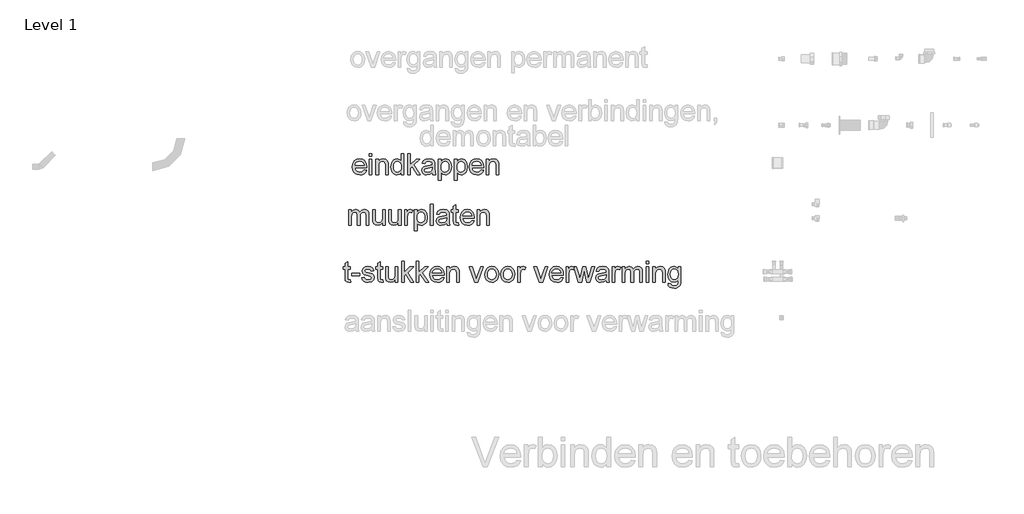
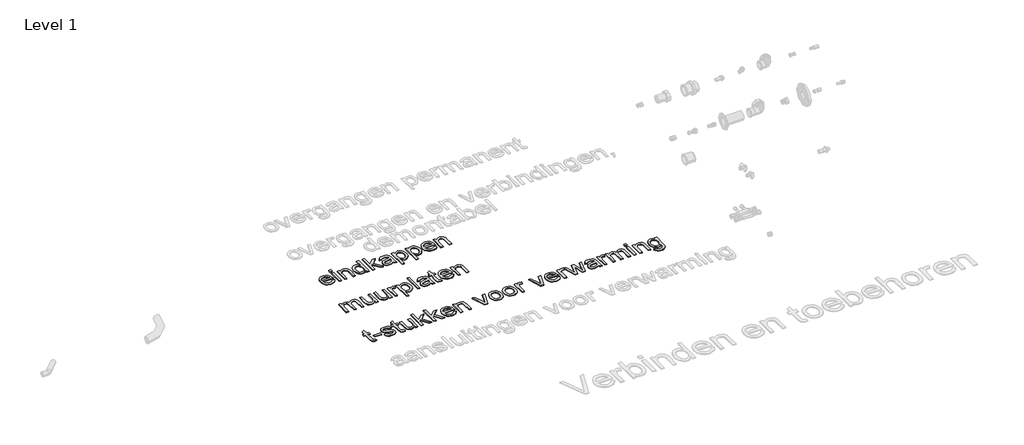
# One storey, part 4 of 7: 3 proxies.
"""IFC4 building model written with IfcOpenShell, lengths in millimetres."""

from ifc_helpers import new_model, si_unit, origin, origin_with_axes, place, context, project, spatial, polyline, outline, extrude, element, save

model = new_model("IFC4")

# Units and contexts
model_context = context("Model", 3, world=origin())
ifc_project = project(units=[si_unit("LENGTHUNIT", "METRE", prefix="MILLI")], contexts=[model_context])

# Site, building, storey
site = spatial("IfcSite", under=ifc_project)
building = spatial("IfcBuilding", under=site)
storey = spatial("IfcBuildingStorey", under=building, Name="Level 1", Elevation=0.0)

# Proxies
placement = place(None, origin())
element("IfcBuildingElementProxy", 1, Name="small", ObjectType="small", at=placement, inside=storey, context=model_context, shape_type="SweptSolid", body=[
    extrude(outline(polyline([(2370.7372032, 4922.1930397), (2387.973701, 4919.9955579), (2381.7632398, 4907.0080972), (2371.8531119, 4897.2996914), (2358.4664993, 4891.2480326), (2341.8265835, 4889.230813), (2321.19944, 4892.7115898), (2305.3277845, 4903.1539202), (2295.2073508, 4919.8796751), (2291.8338729, 4942.2107254), (2295.2416864, 4965.292868), (2305.4651271, 4982.5551175), (2321.1221848, 4993.3193447), (2340.8308496, 4996.9074204), (2359.9257645, 4993.3279286), (2375.1836703, 4982.5894531), (2385.1882211, 4965.3615393), (2388.5230714, 4942.3137323), (2388.4200645, 4937.5754122), (2309.4137272, 4937.5754122), (2312.4567244, 4924.4162732), (2319.5255769, 4914.742203), (2329.7275578, 4908.7935512), (2342.16994, 4906.8106672), (2359.4064378, 4910.4845821), (2370.7372032, 4922.1930397)]), holes=[polyline([(2309.4137272, 4955.1552665), (2370.9432171, 4955.1552665), (2363.9044083, 4971.0870094), (2353.6552159, 4977.2674269), (2340.7621783, 4979.3275661), (2328.9120861, 4977.6837467), (2319.1135491, 4972.7522886), (2312.302214, 4965.0653943), (2309.4137272, 4955.1552665)])]), origin_with_axes(), (0.0, 0.0, 1.0), 5.0),
    extrude(outline(polyline([(2406.1029257, 5014.4872747), (2406.1029257, 5032.0671289), (2423.68278, 5032.0671289), (2423.68278, 5014.4872747), (2406.1029257, 5014.4872747)])), origin_with_axes(), (0.0, 0.0, 1.0), 5.0),
    extrude(outline(polyline([(2406.1029257, 4891.4282947), (2406.1029257, 4994.7099386), (2423.68278, 4994.7099386), (2423.68278, 4891.4282947), (2406.1029257, 4891.4282947)])), origin_with_axes(), (0.0, 0.0, 1.0), 5.0),
    extrude(outline(polyline([(2450.0525614, 4891.4282947), (2450.0525614, 4994.7099386), (2467.6324157, 4994.7099386), (2467.6324157, 4980.2889644), (2481.0748238, 4992.7528064), (2499.4272302, 4996.9074204), (2516.0285184, 4993.5596942), (2527.3592838, 4984.7697671), (2532.6298066, 4971.8423938), (2533.5568692, 4954.8462456), (2533.5568692, 4891.4282947), (2515.9770149, 4891.4282947), (2515.9770149, 4952.4770856), (2513.9512114, 4968.0311363), (2506.7922278, 4976.2545252), (2494.7232458, 4979.3275661), (2484.4268419, 4977.6021996), (2475.6497906, 4972.4260999), (2469.6367594, 4962.425841), (2467.6324157, 4946.2279967), (2467.6324157, 4891.4282947), (2450.0525614, 4891.4282947)])), origin_with_axes(), (0.0, 0.0, 1.0), 5.0),
    extrude(outline(polyline([(2621.4561406, 4891.4282947), (2621.4561406, 4908.0124151), (2609.8249382, 4893.9262135), (2593.7472687, 4889.230813), (2582.3821676, 4890.9304278), (2571.9784648, 4896.0292722), (2563.1713698, 4904.1711139), (2556.5960923, 4914.9997204), (2551.1367235, 4942.9661097), (2556.1668966, 4970.9496668), (2562.4503211, 4982.0486666), (2571.2402482, 4990.2119681), (2581.8714248, 4995.2335573), (2593.6785974, 4996.9074204), (2609.8850256, 4992.1175968), (2621.4561406, 4979.6709226), (2621.4561406, 5032.0671289), (2639.0359949, 5032.0671289), (2639.0359949, 4891.4282947), (2621.4561406, 4891.4282947)]), holes=[polyline([(2568.7165777, 4943.034781), (2570.6994617, 4927.1330818), (2576.6481136, 4915.8237761), (2585.2921142, 4909.0639444), (2595.3610444, 4906.8106672), (2605.4256826, 4908.9609375), (2613.8507935, 4915.4117483), (2619.5548038, 4926.2832744), (2621.4561406, 4941.6956906), (2619.5204681, 4958.5459122), (2613.7134509, 4970.2286181), (2605.0737422, 4977.0528291), (2594.6399957, 4979.3275661), (2584.4680585, 4977.1429602), (2576.1330788, 4970.5891425), (2570.570703, 4959.3313403), (2568.7165777, 4943.034781)])]), origin_with_axes(), (0.0, 0.0, 1.0), 5.0),
    extrude(outline(polyline([(2665.4057763, 4891.4282947), (2665.4057763, 5032.0671289), (2682.9856305, 5032.0671289), (2682.9856305, 4956.4943569), (2722.4029601, 4994.7099386), (2746.7126023, 4994.7099386), (2706.8145736, 4956.0136578), (2748.9100841, 4891.4282947), (2728.3773637, 4891.4282947), (2694.213389, 4943.7901654), (2682.9856305, 4932.9057634), (2682.9856305, 4891.4282947), (2665.4057763, 4891.4282947)])), origin_with_axes(), (0.0, 0.0, 1.0), 5.0),
    extrude(outline(polyline([(2830.2169101, 4904.6131854), (2813.1692584, 4892.6987139), (2794.3361528, 4889.230813), (2779.6447854, 4891.3167039), (2768.8075949, 4897.5743766), (2762.1250185, 4907.0767685), (2759.897493, 4918.896817), (2763.262387, 4932.8027565), (2772.1038176, 4942.8974384), (2784.4131492, 4948.6658281), (2799.6238434, 4951.3096734), (2830.1139031, 4957.3527483), (2830.2169101, 4961.2670127), (2829.0065783, 4969.1127094), (2825.375583, 4974.2458895), (2817.2552011, 4978.057147), (2805.9416035, 4979.3275661), (2788.1557353, 4975.9455043), (2779.6748291, 4963.9451936), (2762.0949748, 4966.1426754), (2769.7003219, 4983.3105019), (2785.0140231, 4993.3708481), (2808.2077566, 4996.9074204), (2829.5130292, 4993.782876), (2841.5476756, 4985.9371793), (2846.9383731, 4974.0055399), (2847.7967644, 4958.6231674), (2847.7967644, 4936.7513565), (2848.6894914, 4906.2097933), (2852.191728, 4891.4282947), (2834.6118737, 4891.4282947), (2830.2169101, 4904.6131854)]), holes=[polyline([(2830.2169101, 4939.772894), (2801.8556608, 4934.3821965), (2786.7308057, 4931.5323373), (2779.880843, 4926.8970242), (2777.4773473, 4920.1329005), (2782.7135343, 4910.6219247), (2798.078739, 4906.8106672), (2815.8646072, 4911.0167847), (2827.3327153, 4921.1973058), (2830.1139031, 4934.7942243), (2830.2169101, 4939.772894)])]), origin_with_axes(), (0.0, 0.0, 1.0), 5.0),
    extrude(outline(polyline([(2871.969064, 4851.8736226), (2871.969064, 4994.7099386), (2889.5489183, 4994.7099386), (2889.5489183, 4977.4734409), (2901.7037394, 4992.0489255), (2918.1161815, 4996.9074204), (2930.0049013, 4995.2078056), (2940.4000202, 4990.1089611), (2948.8637586, 4981.9199079), (2954.958337, 4970.9496668), (2959.8683354, 4943.8588367), (2954.3231275, 4915.3774126), (2947.5246682, 4904.2011576), (2938.2197062, 4895.9777687), (2927.3825158, 4890.9175519), (2915.987371, 4889.230813), (2900.6908376, 4893.7459513), (2889.5489183, 4905.1625559), (2889.5489183, 4851.8736226), (2871.969064, 4851.8736226)]), holes=[polyline([(2889.5489183, 4942.245061), (2891.4502551, 4926.4849963), (2897.1542654, 4915.4632518), (2905.5707923, 4908.9738134), (2915.6096788, 4906.8106672), (2925.8116597, 4909.0510686), (2934.4427844, 4915.7722726), (2940.3270569, 4927.1974611), (2942.2884811, 4943.5498158), (2940.3742685, 4959.2240414), (2934.6316305, 4970.4002964), (2926.2279795, 4977.0957487), (2916.3307275, 4979.3275661), (2906.394848, 4976.9541141), (2897.6693002, 4969.8337581), (2891.5790138, 4958.1896798), (2889.5489183, 4942.245061)])]), origin_with_axes(), (0.0, 0.0, 1.0), 5.0),
    extrude(outline(polyline([(2979.6456715, 4851.8736226), (2979.6456715, 4994.7099386), (2997.2255257, 4994.7099386), (2997.2255257, 4977.4734409), (3009.3803468, 4992.0489255), (3025.7927889, 4996.9074204), (3037.6815087, 4995.2078056), (3048.0766276, 4990.1089611), (3056.5403661, 4981.9199079), (3062.6349445, 4970.9496668), (3067.5449428, 4943.8588367), (3061.9997349, 4915.3774126), (3055.2012756, 4904.2011576), (3045.8963137, 4895.9777687), (3035.0591232, 4890.9175519), (3023.6639784, 4889.230813), (3008.3674451, 4893.7459513), (2997.2255257, 4905.1625559), (2997.2255257, 4851.8736226), (2979.6456715, 4851.8736226)]), holes=[polyline([(2997.2255257, 4942.245061), (2999.1268625, 4926.4849963), (3004.8308728, 4915.4632518), (3013.2473998, 4908.9738134), (3023.2862863, 4906.8106672), (3033.4882671, 4909.0510686), (3042.1193919, 4915.7722726), (3048.0036644, 4927.1974611), (3049.9650886, 4943.5498158), (3048.0508759, 4959.2240414), (3042.308238, 4970.4002964), (3033.9045869, 4977.0957487), (3024.007335, 4979.3275661), (3014.0714554, 4976.9541141), (3005.3459076, 4969.8337581), (2999.2556212, 4958.1896798), (2997.2255257, 4942.245061)])]), origin_with_axes(), (0.0, 0.0, 1.0), 5.0),
    extrude(outline(polyline([(3159.6331639, 4922.1930397), (3176.8696616, 4919.9955579), (3170.6592004, 4907.0080972), (3160.7490726, 4897.2996914), (3147.3624599, 4891.2480326), (3130.7225441, 4889.230813), (3110.0954007, 4892.7115898), (3094.2237451, 4903.1539202), (3084.1033114, 4919.8796751), (3080.7298335, 4942.2107254), (3084.1376471, 4965.292868), (3094.3610877, 4982.5551175), (3110.0181455, 4993.3193447), (3129.7268102, 4996.9074204), (3148.8217252, 4993.3279286), (3164.0796309, 4982.5894531), (3174.0841818, 4965.3615393), (3177.4190321, 4942.3137323), (3177.3160251, 4937.5754122), (3098.3096878, 4937.5754122), (3101.3526851, 4924.4162732), (3108.4215376, 4914.742203), (3118.6235185, 4908.7935512), (3131.0659007, 4906.8106672), (3148.3023984, 4910.4845821), (3159.6331639, 4922.1930397)]), holes=[polyline([(3098.3096878, 4955.1552665), (3159.8391778, 4955.1552665), (3152.8003689, 4971.0870094), (3142.5511766, 4977.2674269), (3129.6581389, 4979.3275661), (3117.8080467, 4977.6837467), (3108.0095098, 4972.7522886), (3101.1981746, 4965.0653943), (3098.3096878, 4955.1552665)])]), origin_with_axes(), (0.0, 0.0, 1.0), 5.0),
    extrude(outline(polyline([(3194.9988863, 4891.4282947), (3194.9988863, 4994.7099386), (3212.5787406, 4994.7099386), (3212.5787406, 4980.2889644), (3226.0211487, 4992.7528064), (3244.3735552, 4996.9074204), (3260.9748434, 4993.5596942), (3272.3056088, 4984.7697671), (3277.5761315, 4971.8423938), (3278.5031941, 4954.8462456), (3278.5031941, 4891.4282947), (3260.9233399, 4891.4282947), (3260.9233399, 4952.4770856), (3258.8975364, 4968.0311363), (3251.7385527, 4976.2545252), (3239.6695707, 4979.3275661), (3229.3731668, 4977.6021996), (3220.5961156, 4972.4260999), (3214.5830843, 4962.425841), (3212.5787406, 4946.2279967), (3212.5787406, 4891.4282947), (3194.9988863, 4891.4282947)])), origin_with_axes(), (0.0, 0.0, 1.0), 5.0),
])
element("IfcBuildingElementProxy", 2, Name="small", ObjectType="small", at=placement, inside=storey, context=model_context, shape_type="SweptSolid", body=[
    extrude(outline(polyline([(2266.0349447, 4550.3273586), (2266.0349447, 4653.6090025), (2283.6147989, 4653.6090025), (2283.6147989, 4636.6128543), (2295.7009488, 4650.5359615), (2312.9031109, 4655.8064842), (2330.5173008, 4650.4329546), (2340.1999549, 4635.3767708), (2353.9170482, 4650.6990559), (2371.2393851, 4655.8064842), (2384.4543195, 4653.6819657), (2394.2271047, 4647.3084102), (2400.2658877, 4636.5141393), (2402.2788153, 4621.1274748), (2402.2788153, 4550.3273586), (2384.698961, 4550.3273586), (2384.698961, 4613.5736312), (2383.0680175, 4628.2521228), (2377.1622852, 4635.4797777), (2367.1191068, 4638.22663), (2357.595255, 4636.4669278), (2349.8311055, 4631.1878211), (2344.6678817, 4622.0287857), (2342.9468071, 4608.6292972), (2342.9468071, 4550.3273586), (2325.3669529, 4550.3273586), (2325.3669529, 4615.5307634), (2321.298178, 4632.5612472), (2315.9289403, 4636.8102843), (2307.9587768, 4638.22663), (2294.9455644, 4634.4497082), (2286.2929799, 4623.3936279), (2283.6147989, 4602.414544), (2283.6147989, 4550.3273586), (2266.0349447, 4550.3273586)])), origin_with_axes(), (0.0, 0.0, 1.0), 5.0),
    extrude(outline(polyline([(2494.5730503, 4550.3273586), (2494.5730503, 4568.0788911), (2480.8044535, 4553.1171304), (2462.846907, 4548.1298768), (2446.3142901, 4551.6321134), (2434.9148534, 4560.4220405), (2429.6786663, 4573.3665817), (2428.6485967, 4589.7103524), (2428.6485967, 4653.6090025), (2446.228451, 4653.6090025), (2446.228451, 4597.9852448), (2447.2928562, 4580.062034), (2454.2458259, 4569.5381564), (2467.3448775, 4565.7097311), (2482.0233691, 4569.6239955), (2491.7231911, 4580.2852157), (2494.5730503, 4599.8737057), (2494.5730503, 4653.6090025), (2512.1529045, 4653.6090025), (2512.1529045, 4550.3273586), (2494.5730503, 4550.3273586)])), origin_with_axes(), (0.0, 0.0, 1.0), 5.0),
    extrude(outline(polyline([(2602.2496577, 4550.3273586), (2602.2496577, 4568.0788911), (2588.4810609, 4553.1171304), (2570.5235144, 4548.1298768), (2553.9908976, 4551.6321134), (2542.5914608, 4560.4220405), (2537.3552738, 4573.3665817), (2536.3252042, 4589.7103524), (2536.3252042, 4653.6090025), (2553.9050584, 4653.6090025), (2553.9050584, 4597.9852448), (2554.9694637, 4580.062034), (2561.9224334, 4569.5381564), (2575.021485, 4565.7097311), (2589.6999766, 4569.6239955), (2599.3997985, 4580.2852157), (2602.2496577, 4599.8737057), (2602.2496577, 4653.6090025), (2619.829512, 4653.6090025), (2619.829512, 4550.3273586), (2602.2496577, 4550.3273586)])), origin_with_axes(), (0.0, 0.0, 1.0), 5.0),
    extrude(outline(polyline([(2644.0018116, 4550.3273586), (2644.0018116, 4653.6090025), (2659.3841841, 4653.6090025), (2659.3841841, 4638.3296369), (2670.3029217, 4652.4072546), (2681.2903306, 4655.8064842), (2698.9388562, 4650.3814511), (2693.0674596, 4634.6213864), (2680.7066245, 4638.22663), (2670.766453, 4634.758729), (2664.4315251, 4625.1447462), (2661.5816659, 4604.6120258), (2661.5816659, 4550.3273586), (2644.0018116, 4550.3273586)])), origin_with_axes(), (0.0, 0.0, 1.0), 5.0),
    extrude(outline(polyline([(2709.9262651, 4510.7726865), (2709.9262651, 4653.6090025), (2727.5061194, 4653.6090025), (2727.5061194, 4636.3725047), (2739.6609405, 4650.9479894), (2756.0733826, 4655.8064842), (2767.9621024, 4654.1068694), (2778.3572213, 4649.008025), (2786.8209598, 4640.8189718), (2792.9155382, 4629.8487307), (2797.8255365, 4602.7579005), (2792.2803286, 4574.2764765), (2785.4818693, 4563.1002215), (2776.1769074, 4554.8768326), (2765.3397169, 4549.8166158), (2753.9445721, 4548.1298768), (2738.6480388, 4552.6450152), (2727.5061194, 4564.0616197), (2727.5061194, 4510.7726865), (2709.9262651, 4510.7726865)]), holes=[polyline([(2727.5061194, 4601.1441249), (2729.4074562, 4585.3840602), (2735.1114665, 4574.3623156), (2743.5279934, 4567.8728772), (2753.56688, 4565.7097311), (2763.7688608, 4567.9501324), (2772.3999856, 4574.6713365), (2778.2842581, 4586.096525), (2780.2456822, 4602.4488797), (2778.3314696, 4618.1231052), (2772.5888317, 4629.2993602), (2764.1851806, 4635.9948125), (2754.2879287, 4638.22663), (2744.3520491, 4635.853178), (2735.6265013, 4628.7328219), (2729.5362149, 4617.0887437), (2727.5061194, 4601.1441249)])]), origin_with_axes(), (0.0, 0.0, 1.0), 5.0),
    extrude(outline(polyline([(2817.6028726, 4550.3273586), (2817.6028726, 4690.9661928), (2835.1827269, 4690.9661928), (2835.1827269, 4550.3273586), (2817.6028726, 4550.3273586)])), origin_with_axes(), (0.0, 0.0, 1.0), 5.0),
    extrude(outline(polyline([(2927.4769618, 4563.5122493), (2910.4293102, 4551.5977777), (2891.5962045, 4548.1298768), (2876.9048371, 4550.2157677), (2866.0676466, 4556.4734405), (2859.3850702, 4565.9758324), (2857.1575447, 4577.7958809), (2860.5224387, 4591.7018203), (2869.3638693, 4601.7965023), (2881.6732009, 4607.5648919), (2896.8838951, 4610.2087372), (2927.3739549, 4616.2518121), (2927.4769618, 4620.1660766), (2926.26663, 4628.0117732), (2922.6356348, 4633.1449533), (2914.5152528, 4636.9562108), (2903.2016552, 4638.22663), (2885.415787, 4634.8445682), (2876.9348808, 4622.8442575), (2859.3550265, 4625.0417393), (2866.9603736, 4642.2095657), (2882.2740748, 4652.269912), (2905.4678083, 4655.8064842), (2926.7730809, 4652.6819398), (2938.8077273, 4644.8362432), (2944.1984248, 4632.9046038), (2945.0568161, 4617.5222313), (2945.0568161, 4595.6504204), (2945.9495431, 4565.1088572), (2949.4517797, 4550.3273586), (2931.8719254, 4550.3273586), (2927.4769618, 4563.5122493)]), holes=[polyline([(2927.4769618, 4598.6719578), (2899.1157125, 4593.2812603), (2883.9908574, 4590.4314012), (2877.1408947, 4585.796088), (2874.737399, 4579.0319644), (2879.973586, 4569.5209886), (2895.3387907, 4565.7097311), (2913.1246589, 4569.9158486), (2924.592767, 4580.0963696), (2927.3739549, 4593.6932882), (2927.4769618, 4598.6719578)])]), origin_with_axes(), (0.0, 0.0, 1.0), 5.0),
    extrude(outline(polyline([(3006.5863061, 4564.9886824), (3008.7837878, 4549.8123238), (2995.6332328, 4548.1298768), (2980.9032377, 4551.0484073), (2973.555408, 4558.7052579), (2971.4265975, 4578.6542722), (2971.4265975, 4636.0291482), (2958.2417068, 4636.0291482), (2958.2417068, 4653.6090025), (2971.4265975, 4653.6090025), (2971.4265975, 4678.7083647), (2989.0064518, 4689.0433962), (2989.0064518, 4653.6090025), (3006.5863061, 4653.6090025), (3006.5863061, 4636.0291482), (2989.0064518, 4636.0291482), (2989.0064518, 4579.169307), (2989.9335144, 4570.1046947), (2992.937884, 4566.8943111), (2998.9294555, 4565.7097311), (3006.5863061, 4564.9886824)])), origin_with_axes(), (0.0, 0.0, 1.0), 5.0),
    extrude(outline(polyline([(3096.4770453, 4581.0921036), (3113.713543, 4578.8946218), (3107.5030818, 4565.9071611), (3097.592954, 4556.1987552), (3084.2063414, 4550.1470964), (3067.5664256, 4548.1298768), (3046.9392821, 4551.6106536), (3031.0676266, 4562.052984), (3020.9471929, 4578.778739), (3017.573715, 4601.1097892), (3020.9815285, 4624.1919319), (3031.2049692, 4641.4541813), (3046.8620269, 4652.2184085), (3066.5706916, 4655.8064842), (3085.6656066, 4652.2269924), (3100.9235124, 4641.488517), (3110.9280632, 4624.2606032), (3114.2629135, 4601.2127962), (3114.1599065, 4596.4744761), (3035.1535693, 4596.4744761), (3038.1965665, 4583.3153371), (3045.265419, 4573.6412669), (3055.4673999, 4567.692615), (3067.9097821, 4565.7097311), (3085.1462799, 4569.3836459), (3096.4770453, 4581.0921036)]), holes=[polyline([(3035.1535693, 4614.0543303), (3096.6830592, 4614.0543303), (3089.6442504, 4629.9860733), (3079.395058, 4636.1664908), (3066.5020203, 4638.22663), (3054.6519281, 4636.5828106), (3044.8533912, 4631.6513524), (3038.0420561, 4623.9644582), (3035.1535693, 4614.0543303)])]), origin_with_axes(), (0.0, 0.0, 1.0), 5.0),
    extrude(outline(polyline([(3131.8427678, 4550.3273586), (3131.8427678, 4653.6090025), (3149.422622, 4653.6090025), (3149.422622, 4639.1880283), (3162.8650302, 4651.6518702), (3181.2174366, 4655.8064842), (3197.8187248, 4652.4587581), (3209.1494902, 4643.668831), (3214.420013, 4630.7414576), (3215.3470756, 4613.7453095), (3215.3470756, 4550.3273586), (3197.7672213, 4550.3273586), (3197.7672213, 4611.3761494), (3195.7414178, 4626.9302002), (3188.5824342, 4635.153589), (3176.5134522, 4638.22663), (3166.2170483, 4636.5012634), (3157.439997, 4631.3251637), (3151.4269658, 4621.3249048), (3149.422622, 4605.1270606), (3149.422622, 4550.3273586), (3131.8427678, 4550.3273586)])), origin_with_axes(), (0.0, 0.0, 1.0), 5.0),
])
element("IfcBuildingElementProxy", 3, Name="small", ObjectType="small", at=placement, inside=storey, context=model_context, shape_type="SweptSolid", body=[
    extrude(outline(polyline([(2277.7374193, 4180.6739929), (2279.9349011, 4165.4976344), (2266.7843461, 4163.8151874), (2252.054351, 4166.7337179), (2244.7065213, 4174.3905685), (2242.5777108, 4194.3395828), (2242.5777108, 4251.7144588), (2229.3928201, 4251.7144588), (2229.3928201, 4269.294313), (2242.5777108, 4269.294313), (2242.5777108, 4294.3936753), (2260.1575651, 4304.7287068), (2260.1575651, 4269.294313), (2277.7374193, 4269.294313), (2277.7374193, 4251.7144588), (2260.1575651, 4251.7144588), (2260.1575651, 4194.8546176), (2261.0846277, 4185.7900052), (2264.0889973, 4182.5796217), (2270.0805688, 4181.3950417), (2277.7374193, 4180.6739929)])), origin_with_axes(), (0.0, 0.0, 1.0), 5.0),
    extrude(outline(polyline([(2286.5273465, 4207.7648231), (2286.5273465, 4225.3446774), (2341.4643911, 4225.3446774), (2341.4643911, 4207.7648231), (2286.5273465, 4207.7648231)])), origin_with_axes(), (0.0, 0.0, 1.0), 5.0),
    extrude(outline(polyline([(2354.6492818, 4196.7774142), (2372.2291361, 4198.9748959), (2375.00174, 4191.455388), (2380.3666858, 4185.9273478), (2399.0109453, 4181.3950417), (2416.9341561, 4185.5496557), (2422.7712171, 4195.3009811), (2416.8998205, 4203.1981812), (2398.8049314, 4208.2111866), (2372.332143, 4216.8122676), (2360.7781958, 4226.8554461), (2356.8467636, 4241.0360707), (2360.0056437, 4254.1351223), (2368.6238925, 4264.1439651), (2379.8001475, 4269.3458165), (2394.9250026, 4271.4917948), (2416.3161144, 4268.0410617), (2429.9130329, 4258.7017641), (2435.9561078, 4242.9245316), (2418.3762536, 4240.7270498), (2411.7666404, 4250.4268718), (2396.2984287, 4253.9119405), (2379.4739588, 4250.5813822), (2374.4266179, 4242.8215247), (2376.5210927, 4237.7055124), (2383.0792024, 4233.8255836), (2398.2212253, 4230.0829974), (2424.0244685, 4221.8081051), (2436.0076113, 4212.4344719), (2440.3510714, 4197.1551063), (2435.2522269, 4180.3306364), (2420.5393997, 4168.1243118), (2398.7705958, 4163.8151874), (2381.044815, 4165.8924944), (2368.1088577, 4172.1244154), (2359.473441, 4182.4422791), (2354.6492818, 4196.7774142)])), origin_with_axes(), (0.0, 0.0, 1.0), 5.0),
    extrude(outline(polyline([(2497.4855978, 4180.6739929), (2499.6830796, 4165.4976344), (2486.5325245, 4163.8151874), (2471.8025294, 4166.7337179), (2464.4546997, 4174.3905685), (2462.3258892, 4194.3395828), (2462.3258892, 4251.7144588), (2449.1409985, 4251.7144588), (2449.1409985, 4269.294313), (2462.3258892, 4269.294313), (2462.3258892, 4294.3936753), (2479.9057435, 4304.7287068), (2479.9057435, 4269.294313), (2497.4855978, 4269.294313), (2497.4855978, 4251.7144588), (2479.9057435, 4251.7144588), (2479.9057435, 4194.8546176), (2480.8328061, 4185.7900052), (2483.8371758, 4182.5796217), (2489.8287472, 4181.3950417), (2497.4855978, 4180.6739929)])), origin_with_axes(), (0.0, 0.0, 1.0), 5.0),
    extrude(outline(polyline([(2580.9899056, 4166.0126692), (2580.9899056, 4183.7642017), (2567.2213088, 4168.802441), (2549.2637623, 4163.8151874), (2532.7311455, 4167.317424), (2521.3317087, 4176.1073511), (2516.0955217, 4189.0518923), (2515.0654521, 4205.395663), (2515.0654521, 4269.294313), (2532.6453063, 4269.294313), (2532.6453063, 4213.6705554), (2533.7097116, 4195.7473446), (2540.6626813, 4185.223467), (2553.7617329, 4181.3950417), (2568.4402245, 4185.3093061), (2578.1400464, 4195.9705263), (2580.9899056, 4215.5590163), (2580.9899056, 4269.294313), (2598.5697599, 4269.294313), (2598.5697599, 4166.0126692), (2580.9899056, 4166.0126692)])), origin_with_axes(), (0.0, 0.0, 1.0), 5.0),
    extrude(outline(polyline([(2622.7420595, 4166.0126692), (2622.7420595, 4306.6515034), (2640.3219138, 4306.6515034), (2640.3219138, 4231.0787314), (2679.7392433, 4269.294313), (2704.0488855, 4269.294313), (2664.1508569, 4230.5980322), (2706.2463673, 4166.0126692), (2685.7136469, 4166.0126692), (2651.5496723, 4218.3745398), (2640.3219138, 4207.4901379), (2640.3219138, 4166.0126692), (2622.7420595, 4166.0126692)])), origin_with_axes(), (0.0, 0.0, 1.0), 5.0),
    extrude(outline(polyline([(2721.6287398, 4166.0126692), (2721.6287398, 4306.6515034), (2739.2085941, 4306.6515034), (2739.2085941, 4231.0787314), (2778.6259236, 4269.294313), (2802.9355658, 4269.294313), (2763.0375372, 4230.5980322), (2805.1330476, 4166.0126692), (2784.6003272, 4166.0126692), (2750.4363526, 4218.3745398), (2739.2085941, 4207.4901379), (2739.2085941, 4166.0126692), (2721.6287398, 4166.0126692)])), origin_with_axes(), (0.0, 0.0, 1.0), 5.0),
    extrude(outline(polyline([(2892.8263051, 4196.7774142), (2910.0628028, 4194.5799324), (2903.8523416, 4181.5924717), (2893.9422138, 4171.8840658), (2880.5556011, 4165.832407), (2863.9156854, 4163.8151874), (2843.2885419, 4167.2959642), (2827.4168864, 4177.7382946), (2817.2964527, 4194.4640495), (2813.9229748, 4216.7950998), (2817.3307883, 4239.8772424), (2827.554229, 4257.1394919), (2843.2112867, 4267.9037191), (2862.9199514, 4271.4917948), (2882.0148664, 4267.912303), (2897.2727721, 4257.1738276), (2907.277323, 4239.9459137), (2910.6121733, 4216.8981067), (2910.5091663, 4212.1597866), (2831.502829, 4212.1597866), (2834.5458263, 4199.0006477), (2841.6146788, 4189.3265775), (2851.8166597, 4183.3779256), (2864.2590419, 4181.3950417), (2881.4955396, 4185.0689565), (2892.8263051, 4196.7774142)]), holes=[polyline([(2831.502829, 4229.7396409), (2893.032319, 4229.7396409), (2885.9935102, 4245.6713839), (2875.7443178, 4251.8518014), (2862.8512801, 4253.9119405), (2851.0011879, 4252.2681212), (2841.202651, 4247.336663), (2834.3913158, 4239.6497687), (2831.502829, 4229.7396409)])]), origin_with_axes(), (0.0, 0.0, 1.0), 5.0),
    extrude(outline(polyline([(2928.1920276, 4166.0126692), (2928.1920276, 4269.294313), (2945.7718818, 4269.294313), (2945.7718818, 4254.8733388), (2959.2142899, 4267.3371808), (2977.5666964, 4271.4917948), (2994.1679846, 4268.1440687), (3005.49875, 4259.3541415), (3010.7692727, 4246.4267682), (3011.6963354, 4229.43062), (3011.6963354, 4166.0126692), (2994.1164811, 4166.0126692), (2994.1164811, 4227.06146), (2992.0906776, 4242.6155108), (2984.931694, 4250.8388996), (2972.862712, 4253.9119405), (2962.5663081, 4252.186574), (2953.7892568, 4247.0104743), (2947.7762256, 4237.0102154), (2945.7718818, 4220.8123712), (2945.7718818, 4166.0126692), (2928.1920276, 4166.0126692)])), origin_with_axes(), (0.0, 0.0, 1.0), 5.0),
    extrude(outline(polyline([(3116.1453914, 4166.0126692), (3079.8182707, 4269.294313), (3098.4281946, 4269.294313), (3120.4373481, 4207.4214665), (3127.0641291, 4186.6140609), (3133.5535675, 4206.2540543), (3155.7000636, 4269.294313), (3174.3099874, 4269.294313), (3138.4292302, 4166.0126692), (3116.1453914, 4166.0126692)])), origin_with_axes(), (0.0, 0.0, 1.0), 5.0),
    extrude(outline(polyline([(3185.2973964, 4217.6534911), (3189.1000699, 4242.5554234), (3200.5080906, 4260.0580224), (3214.6028761, 4268.6333517), (3231.4788495, 4271.4917948), (3249.9471388, 4268.011018), (3264.6985936, 4257.5686876), (3274.3683719, 4240.9888592), (3277.5916313, 4219.0955885), (3276.1667017, 4201.3354721), (3271.8919129, 4187.8158087), (3264.8917317, 4177.6910831), (3255.2906248, 4170.1157797), (3243.886896, 4165.3903355), (3231.4788495, 4163.8151874), (3212.7873784, 4167.2830883), (3198.0530914, 4177.6867911), (3188.4863201, 4194.614268), (3185.2973964, 4217.6534911)]), holes=[polyline([(3202.8772506, 4217.6878268), (3204.9116381, 4201.7775436), (3211.0148004, 4190.4424862), (3220.1995875, 4183.6569028), (3231.4788495, 4181.3950417), (3242.706608, 4183.6697787), (3251.8742273, 4190.4939897), (3257.9773896, 4201.9792656), (3260.011777, 4218.2371972), (3257.9645137, 4233.683949), (3251.8227238, 4244.864496), (3242.6422286, 4251.6500794), (3231.4788495, 4253.9119405), (3220.1995875, 4251.6586633), (3211.0148004, 4244.8988317), (3204.9116381, 4233.589526), (3202.8772506, 4217.6878268)])]), origin_with_axes(), (0.0, 0.0, 1.0), 5.0),
    extrude(outline(polyline([(3292.9740038, 4217.6534911), (3296.7766774, 4242.5554234), (3308.184698, 4260.0580224), (3322.2794835, 4268.6333517), (3339.1554569, 4271.4917948), (3357.6237462, 4268.011018), (3372.3752011, 4257.5686876), (3382.0449793, 4240.9888592), (3385.2682387, 4219.0955885), (3383.8433091, 4201.3354721), (3379.5685204, 4187.8158087), (3372.5683391, 4177.6910831), (3362.9672322, 4170.1157797), (3351.5635035, 4165.3903355), (3339.1554569, 4163.8151874), (3320.4639859, 4167.2830883), (3305.7296988, 4177.6867911), (3296.1629276, 4194.614268), (3292.9740038, 4217.6534911)]), holes=[polyline([(3310.5538581, 4217.6878268), (3312.5882455, 4201.7775436), (3318.6914078, 4190.4424862), (3327.8761949, 4183.6569028), (3339.1554569, 4181.3950417), (3350.3832154, 4183.6697787), (3359.5508347, 4190.4939897), (3365.653997, 4201.9792656), (3367.6883845, 4218.2371972), (3365.6411212, 4233.683949), (3359.4993313, 4244.864496), (3350.3188361, 4251.6500794), (3339.1554569, 4253.9119405), (3327.8761949, 4251.6586633), (3318.6914078, 4244.8988317), (3312.5882455, 4233.589526), (3310.5538581, 4217.6878268)])]), origin_with_axes(), (0.0, 0.0, 1.0), 5.0),
    extrude(outline(polyline([(3405.0455748, 4166.0126692), (3405.0455748, 4269.294313), (3420.4279473, 4269.294313), (3420.4279473, 4254.0149475), (3431.3466849, 4268.0925652), (3442.3340938, 4271.4917948), (3459.9826194, 4266.0667617), (3454.1112228, 4250.306697), (3441.7503877, 4253.9119405), (3431.8102162, 4250.4440396), (3425.4752883, 4240.8300568), (3422.6254291, 4220.2973364), (3422.6254291, 4166.0126692), (3405.0455748, 4166.0126692)])), origin_with_axes(), (0.0, 0.0, 1.0), 5.0),
    extrude(outline(polyline([(3551.2467848, 4166.0126692), (3514.919664, 4269.294313), (3533.5295879, 4269.294313), (3555.5387414, 4207.4214665), (3562.1655224, 4186.6140609), (3568.6549608, 4206.2540543), (3590.8014569, 4269.294313), (3609.4113808, 4269.294313), (3573.5306235, 4166.0126692), (3551.2467848, 4166.0126692)])), origin_with_axes(), (0.0, 0.0, 1.0), 5.0),
    extrude(outline(polyline([(3697.1046382, 4196.7774142), (3714.341136, 4194.5799324), (3708.1306748, 4181.5924717), (3698.2205469, 4171.8840658), (3684.8339343, 4165.832407), (3668.1940185, 4163.8151874), (3647.566875, 4167.2959642), (3631.6952195, 4177.7382946), (3621.5747858, 4194.4640495), (3618.2013079, 4216.7950998), (3621.6091215, 4239.8772424), (3631.8325621, 4257.1394919), (3647.4896198, 4267.9037191), (3667.1982846, 4271.4917948), (3686.2931995, 4267.912303), (3701.5511053, 4257.1738276), (3711.5556561, 4239.9459137), (3714.8905064, 4216.8981067), (3714.7874995, 4212.1597866), (3635.7811622, 4212.1597866), (3638.8241594, 4199.0006477), (3645.893012, 4189.3265775), (3656.0949928, 4183.3779256), (3668.537375, 4181.3950417), (3685.7738728, 4185.0689565), (3697.1046382, 4196.7774142)]), holes=[polyline([(3635.7811622, 4229.7396409), (3697.3106521, 4229.7396409), (3690.2718433, 4245.6713839), (3680.0226509, 4251.8518014), (3667.1296133, 4253.9119405), (3655.2795211, 4252.2681212), (3645.4809841, 4247.336663), (3638.669649, 4239.6497687), (3635.7811622, 4229.7396409)])]), origin_with_axes(), (0.0, 0.0, 1.0), 5.0),
    extrude(outline(polyline([(3732.4703607, 4166.0126692), (3732.4703607, 4269.294313), (3747.8527332, 4269.294313), (3747.8527332, 4254.0149475), (3758.7714708, 4268.0925652), (3769.7588797, 4271.4917948), (3787.4074053, 4266.0667617), (3781.5360087, 4250.306697), (3769.1751736, 4253.9119405), (3759.2350021, 4250.4440396), (3752.9000742, 4240.8300568), (3750.050215, 4220.2973364), (3750.050215, 4166.0126692), (3732.4703607, 4166.0126692)])), origin_with_axes(), (0.0, 0.0, 1.0), 5.0),
    extrude(outline(polyline([(3815.528305, 4166.0126692), (3784.1111826, 4269.294313), (3802.37775, 4269.294313), (3820.1979538, 4209.0352422), (3825.51998, 4187.5067879), (3829.8806079, 4208.2455222), (3844.0612326, 4269.294313), (3865.0059808, 4269.294313), (3879.1179342, 4208.4172005), (3882.9978629, 4189.6355984), (3888.5602387, 4209.4472701), (3906.4147782, 4269.294313), (3924.7500168, 4269.294313), (3893.0925449, 4166.0126692), (3871.8387758, 4166.0126692), (3858.3448642, 4226.5807609), (3854.4305997, 4245.4653699), (3837.0224237, 4166.0126692), (3815.528305, 4166.0126692)])), origin_with_axes(), (0.0, 0.0, 1.0), 5.0),
    extrude(outline(polyline([(4002.7606202, 4179.1975599), (3985.7129685, 4167.2830883), (3966.8798629, 4163.8151874), (3952.1884955, 4165.9010783), (3941.351305, 4172.158751), (3934.6687286, 4181.661143), (3932.4412031, 4193.4811915), (3935.8060971, 4207.3871309), (3944.6475277, 4217.4818128), (3956.9568592, 4223.2502025), (3972.1675535, 4225.8940478), (4002.6576132, 4231.9371227), (4002.7606202, 4235.8513871), (4001.5502884, 4243.6970838), (3997.9192931, 4248.8302639), (3989.7989112, 4252.6415214), (3978.4853136, 4253.9119405), (3960.6994454, 4250.5298787), (3952.2185392, 4238.5295681), (3934.6386849, 4240.7270498), (3942.244032, 4257.8948763), (3957.5577332, 4267.9552226), (3980.7514667, 4271.4917948), (4002.0567393, 4268.3672504), (4014.0913856, 4260.5215537), (4019.4820831, 4248.5899144), (4020.3404745, 4233.2075419), (4020.3404745, 4211.335731), (4021.2332014, 4180.7941677), (4024.735438, 4166.0126692), (4007.1555838, 4166.0126692), (4002.7606202, 4179.1975599)]), holes=[polyline([(4002.7606202, 4214.3572684), (3974.3993709, 4208.9665709), (3959.2745158, 4206.1167117), (3952.4245531, 4201.4813986), (3950.0210574, 4194.717275), (3955.2572444, 4185.2062991), (3970.6224491, 4181.3950417), (3988.4083173, 4185.6011591), (3999.8764254, 4195.7816802), (4002.6576132, 4209.3785988), (4002.7606202, 4214.3572684)])]), origin_with_axes(), (0.0, 0.0, 1.0), 5.0),
    extrude(outline(polyline([(4044.5127741, 4166.0126692), (4044.5127741, 4269.294313), (4059.8951466, 4269.294313), (4059.8951466, 4254.0149475), (4070.8138842, 4268.0925652), (4081.8012931, 4271.4917948), (4099.4498187, 4266.0667617), (4093.5784221, 4250.306697), (4081.217587, 4253.9119405), (4071.2774155, 4250.4440396), (4064.9424876, 4240.8300568), (4062.0926284, 4220.2973364), (4062.0926284, 4166.0126692), (4044.5127741, 4166.0126692)])), origin_with_axes(), (0.0, 0.0, 1.0), 5.0),
    extrude(outline(polyline([(4110.4372276, 4166.0126692), (4110.4372276, 4269.294313), (4128.0170819, 4269.294313), (4128.0170819, 4252.2981649), (4140.1032317, 4266.2212721), (4157.3053938, 4271.4917948), (4174.9195838, 4266.1182651), (4184.6022379, 4251.0620814), (4198.3193312, 4266.3843665), (4215.6416681, 4271.4917948), (4228.8566025, 4269.3672763), (4238.6293877, 4262.9937207), (4244.6681706, 4252.1994499), (4246.6810983, 4236.8127854), (4246.6810983, 4166.0126692), (4229.101244, 4166.0126692), (4229.101244, 4229.2589418), (4227.4703005, 4243.9374334), (4221.5645682, 4251.1650883), (4211.5213897, 4253.9119405), (4201.997538, 4252.1522383), (4194.2333885, 4246.8731317), (4189.0701647, 4237.7140963), (4187.3490901, 4224.3146078), (4187.3490901, 4166.0126692), (4169.7692358, 4166.0126692), (4169.7692358, 4231.216074), (4165.700461, 4248.2465578), (4160.3312232, 4252.4955949), (4152.3610598, 4253.9119405), (4139.3478474, 4250.1350187), (4130.6952628, 4239.0789385), (4128.0170819, 4218.0998546), (4128.0170819, 4166.0126692), (4110.4372276, 4166.0126692)])), origin_with_axes(), (0.0, 0.0, 1.0), 5.0),
    extrude(outline(polyline([(4273.0508797, 4289.0716491), (4273.0508797, 4306.6515034), (4290.630734, 4306.6515034), (4290.630734, 4289.0716491), (4273.0508797, 4289.0716491)])), origin_with_axes(), (0.0, 0.0, 1.0), 5.0),
    extrude(outline(polyline([(4273.0508797, 4166.0126692), (4273.0508797, 4269.294313), (4290.630734, 4269.294313), (4290.630734, 4166.0126692), (4273.0508797, 4166.0126692)])), origin_with_axes(), (0.0, 0.0, 1.0), 5.0),
    extrude(outline(polyline([(4317.0005154, 4166.0126692), (4317.0005154, 4269.294313), (4334.5803697, 4269.294313), (4334.5803697, 4254.8733388), (4348.0227778, 4267.3371808), (4366.3751842, 4271.4917948), (4382.9764724, 4268.1440687), (4394.3072378, 4259.3541415), (4399.5777606, 4246.4267682), (4400.5048232, 4229.43062), (4400.5048232, 4166.0126692), (4382.9249689, 4166.0126692), (4382.9249689, 4227.06146), (4380.8991654, 4242.6155108), (4373.7401818, 4250.8388996), (4361.6711998, 4253.9119405), (4351.3747959, 4252.186574), (4342.5977446, 4247.0104743), (4336.5847134, 4237.0102154), (4334.5803697, 4220.8123712), (4334.5803697, 4166.0126692), (4317.0005154, 4166.0126692)])), origin_with_axes(), (0.0, 0.0, 1.0), 5.0),
    extrude(outline(polyline([(4420.2821593, 4157.222742), (4437.8620135, 4155.0252602), (4443.5617319, 4145.754634), (4460.6265514, 4141.8403695), (4478.6184335, 4146.2696688), (4487.2023467, 4158.6991751), (4488.4040946, 4179.1975599), (4476.0260917, 4169.3088918), (4460.9355723, 4166.0126692), (4442.8106395, 4169.8496784), (4429.2952681, 4181.360706), (4420.8873251, 4198.2366794), (4418.0846775, 4218.1685259), (4423.1148506, 4245.4138665), (4429.2695164, 4256.4742386), (4437.6731674, 4264.6933356), (4448.0382427, 4269.79218), (4460.0771809, 4271.4917948), (4475.7599904, 4267.6462017), (4488.4040946, 4256.1094223), (4488.4040946, 4269.294313), (4505.9839489, 4269.294313), (4505.9839489, 4180.1246225), (4504.782201, 4159.5361066), (4501.1769574, 4145.9778157), (4494.9664962, 4136.9861666), (4485.9490954, 4130.0975763), (4474.3221849, 4125.7197805), (4460.2831949, 4124.2605153), (4443.9265482, 4126.3163625), (4431.0463864, 4132.4839041), (4422.78437, 4142.780308), (4420.2821593, 4157.222742)]), holes=[polyline([(4435.6645317, 4219.3702737), (4437.5401168, 4203.2453928), (4443.1668719, 4192.1592688), (4451.6263184, 4185.7342098), (4461.9999775, 4183.5925234), (4472.2963814, 4185.7213339), (4480.7987475, 4192.1077654), (4486.5027578, 4203.0522547), (4488.4040946, 4218.855239), (4486.4469624, 4234.0959769), (4480.5755657, 4245.0705099), (4471.9487329, 4251.7015829), (4461.7252923, 4253.9119405), (4451.6864058, 4251.7359185), (4443.2698789, 4245.2078525), (4437.5658685, 4234.3964138), (4435.6645317, 4219.3702737)])]), origin_with_axes(), (0.0, 0.0, 1.0), 5.0),
])

save(model, "model.ifc")
